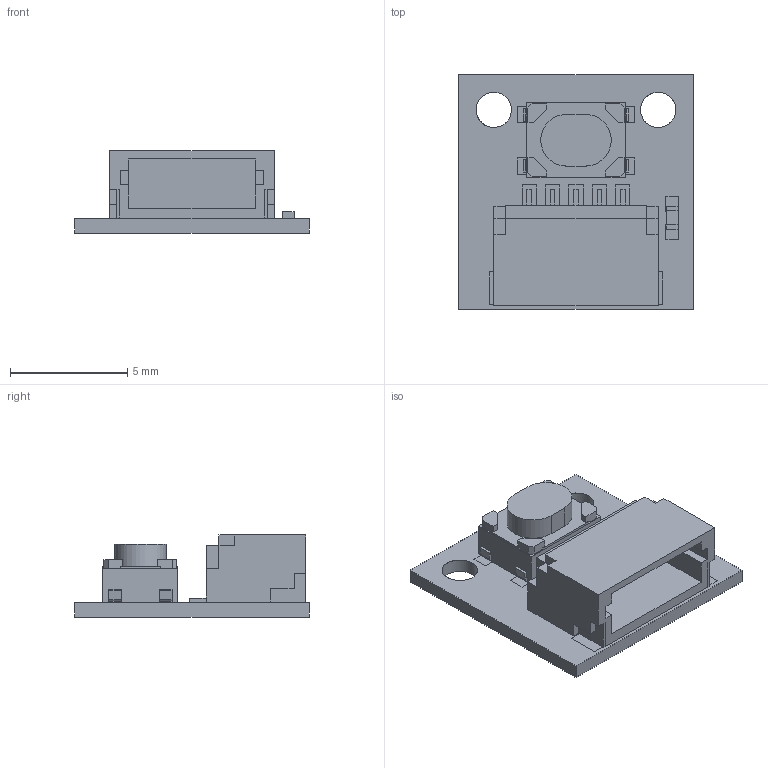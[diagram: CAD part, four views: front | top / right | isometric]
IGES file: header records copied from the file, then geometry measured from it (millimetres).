
Global section: file name: Filename.iges; native system: Open CASCADE 7.4; preprocessor: Open CASCADE IGES processor 7.4; date: 20200729.000731; units: millimetre
Bounding box: 10 x 10 x 3.5 mm (x, y, z)
Surface area: 903.2 mm2 (no closed solid volume)
Topology: 0 solids, 0 shells, 431 faces, 2052 edges, 2044 vertices
Faces by surface type: plane 413, revolution 18
